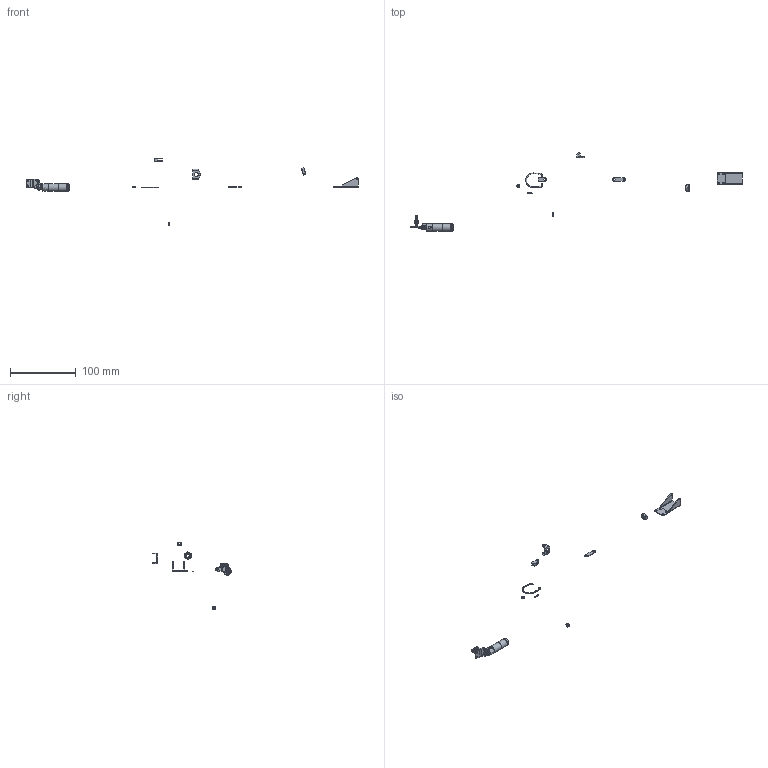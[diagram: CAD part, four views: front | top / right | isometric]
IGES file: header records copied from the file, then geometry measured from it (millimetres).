
Global section: file name: ao-101; native system: Autodesk RealDWG; preprocessor: Autodesk Translation Framework DWG producer (atf_dwg_producer); organization: unknown; date: 20160219.090737; units: centimetre
Bounding box: 503.07 x 118.53 x 102.53 mm (x, y, z)
Volume: 7268.9 mm3; surface area: 12888.2 mm2
Topology: 31 solids, 31 shells, 600 faces, 1520 edges, 999 vertices
Faces by surface type: bspline 600
